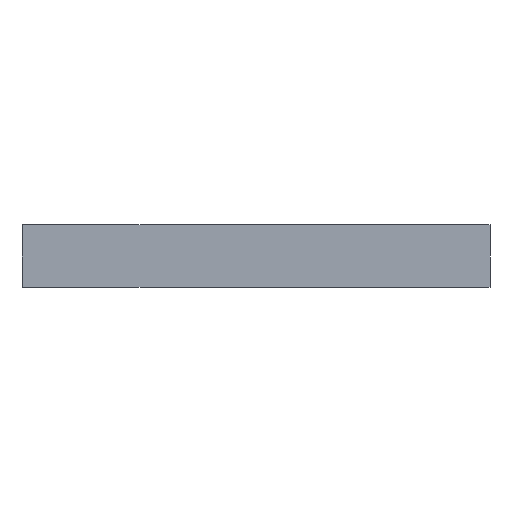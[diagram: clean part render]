
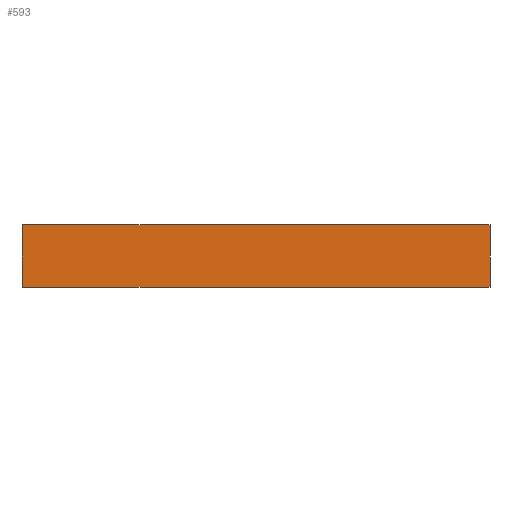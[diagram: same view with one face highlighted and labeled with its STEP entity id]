
A CAD part, front view. The second image highlights one B-rep face of the part: STEP entity #593.
In plain terms, the highlighted planar face has unit normal (0, -1, 0).
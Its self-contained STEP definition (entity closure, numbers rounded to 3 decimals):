
#44 = PLANE('',#45);
#45 = AXIS2_PLACEMENT_3D('',#46,#47,#48);
#46 = CARTESIAN_POINT('',(0.,214.,0.));
#47 = DIRECTION('',(0.,0.,1.));
#48 = DIRECTION('',(0.,-1.,0.));
#100 = PLANE('',#101);
#101 = AXIS2_PLACEMENT_3D('',#102,#103,#104);
#102 = CARTESIAN_POINT('',(0.,214.,4.));
#103 = DIRECTION('',(0.,0.,1.));
#104 = DIRECTION('',(0.,-1.,0.));
#485 = PLANE('',#486);
#486 = AXIS2_PLACEMENT_3D('',#487,#488,#489);
#487 = CARTESIAN_POINT('',(30.,4.,0.));
#488 = DIRECTION('',(1.,0.,0.));
#489 = DIRECTION('',(0.,-1.,0.));
#522 = VERTEX_POINT('',#523);
#523 = CARTESIAN_POINT('',(30.,0.,0.));
#546 = VERTEX_POINT('',#547);
#547 = CARTESIAN_POINT('',(30.,0.,4.));
#568 = EDGE_CURVE('',#522,#546,#569,.T.);
#569 = SURFACE_CURVE('',#570,(#574,#581),.PCURVE_S1.);
#570 = LINE('',#571,#572);
#571 = CARTESIAN_POINT('',(30.,0.,0.));
#572 = VECTOR('',#573,1.);
#573 = DIRECTION('',(0.,0.,1.));
#574 = PCURVE('',#485,#575);
#575 = DEFINITIONAL_REPRESENTATION('',(#576),#580);
#576 = LINE('',#577,#578);
#577 = CARTESIAN_POINT('',(4.,0.));
#578 = VECTOR('',#579,1.);
#579 = DIRECTION('',(0.,-1.));
#580 = ( GEOMETRIC_REPRESENTATION_CONTEXT(2) 
PARAMETRIC_REPRESENTATION_CONTEXT() REPRESENTATION_CONTEXT('2D SPACE',''
  ) );
#581 = PCURVE('',#582,#587);
#582 = PLANE('',#583);
#583 = AXIS2_PLACEMENT_3D('',#584,#585,#586);
#584 = CARTESIAN_POINT('',(0.,0.,0.));
#585 = DIRECTION('',(0.,-1.,0.));
#586 = DIRECTION('',(1.,0.,0.));
#587 = DEFINITIONAL_REPRESENTATION('',(#588),#592);
#588 = LINE('',#589,#590);
#589 = CARTESIAN_POINT('',(30.,0.));
#590 = VECTOR('',#591,1.);
#591 = DIRECTION('',(0.,1.));
#592 = ( GEOMETRIC_REPRESENTATION_CONTEXT(2) 
PARAMETRIC_REPRESENTATION_CONTEXT() REPRESENTATION_CONTEXT('2D SPACE',''
  ) );
#593 = ADVANCED_FACE('',(#594),#582,.T.);
#594 = FACE_BOUND('',#595,.T.);
#595 = EDGE_LOOP('',(#596,#626,#647,#648));
#596 = ORIENTED_EDGE('',*,*,#597,.F.);
#597 = EDGE_CURVE('',#598,#600,#602,.T.);
#598 = VERTEX_POINT('',#599);
#599 = CARTESIAN_POINT('',(0.,0.,0.));
#600 = VERTEX_POINT('',#601);
#601 = CARTESIAN_POINT('',(0.,0.,4.));
#602 = SURFACE_CURVE('',#603,(#607,#614),.PCURVE_S1.);
#603 = LINE('',#604,#605);
#604 = CARTESIAN_POINT('',(0.,0.,0.));
#605 = VECTOR('',#606,1.);
#606 = DIRECTION('',(0.,0.,1.));
#607 = PCURVE('',#582,#608);
#608 = DEFINITIONAL_REPRESENTATION('',(#609),#613);
#609 = LINE('',#610,#611);
#610 = CARTESIAN_POINT('',(0.,0.));
#611 = VECTOR('',#612,1.);
#612 = DIRECTION('',(0.,1.));
#613 = ( GEOMETRIC_REPRESENTATION_CONTEXT(2) 
PARAMETRIC_REPRESENTATION_CONTEXT() REPRESENTATION_CONTEXT('2D SPACE',''
  ) );
#614 = PCURVE('',#615,#620);
#615 = PLANE('',#616);
#616 = AXIS2_PLACEMENT_3D('',#617,#618,#619);
#617 = CARTESIAN_POINT('',(0.,214.,0.));
#618 = DIRECTION('',(1.,0.,0.));
#619 = DIRECTION('',(0.,-1.,0.));
#620 = DEFINITIONAL_REPRESENTATION('',(#621),#625);
#621 = LINE('',#622,#623);
#622 = CARTESIAN_POINT('',(214.,0.));
#623 = VECTOR('',#624,1.);
#624 = DIRECTION('',(0.,-1.));
#625 = ( GEOMETRIC_REPRESENTATION_CONTEXT(2) 
PARAMETRIC_REPRESENTATION_CONTEXT() REPRESENTATION_CONTEXT('2D SPACE',''
  ) );
#626 = ORIENTED_EDGE('',*,*,#627,.T.);
#627 = EDGE_CURVE('',#598,#522,#628,.T.);
#628 = SURFACE_CURVE('',#629,(#633,#640),.PCURVE_S1.);
#629 = LINE('',#630,#631);
#630 = CARTESIAN_POINT('',(0.,0.,0.));
#631 = VECTOR('',#632,1.);
#632 = DIRECTION('',(1.,0.,0.));
#633 = PCURVE('',#582,#634);
#634 = DEFINITIONAL_REPRESENTATION('',(#635),#639);
#635 = LINE('',#636,#637);
#636 = CARTESIAN_POINT('',(0.,0.));
#637 = VECTOR('',#638,1.);
#638 = DIRECTION('',(1.,0.));
#639 = ( GEOMETRIC_REPRESENTATION_CONTEXT(2) 
PARAMETRIC_REPRESENTATION_CONTEXT() REPRESENTATION_CONTEXT('2D SPACE',''
  ) );
#640 = PCURVE('',#44,#641);
#641 = DEFINITIONAL_REPRESENTATION('',(#642),#646);
#642 = LINE('',#643,#644);
#643 = CARTESIAN_POINT('',(214.,0.));
#644 = VECTOR('',#645,1.);
#645 = DIRECTION('',(0.,1.));
#646 = ( GEOMETRIC_REPRESENTATION_CONTEXT(2) 
PARAMETRIC_REPRESENTATION_CONTEXT() REPRESENTATION_CONTEXT('2D SPACE',''
  ) );
#647 = ORIENTED_EDGE('',*,*,#568,.T.);
#648 = ORIENTED_EDGE('',*,*,#649,.F.);
#649 = EDGE_CURVE('',#600,#546,#650,.T.);
#650 = SURFACE_CURVE('',#651,(#655,#662),.PCURVE_S1.);
#651 = LINE('',#652,#653);
#652 = CARTESIAN_POINT('',(0.,0.,4.));
#653 = VECTOR('',#654,1.);
#654 = DIRECTION('',(1.,0.,0.));
#655 = PCURVE('',#582,#656);
#656 = DEFINITIONAL_REPRESENTATION('',(#657),#661);
#657 = LINE('',#658,#659);
#658 = CARTESIAN_POINT('',(0.,4.));
#659 = VECTOR('',#660,1.);
#660 = DIRECTION('',(1.,0.));
#661 = ( GEOMETRIC_REPRESENTATION_CONTEXT(2) 
PARAMETRIC_REPRESENTATION_CONTEXT() REPRESENTATION_CONTEXT('2D SPACE',''
  ) );
#662 = PCURVE('',#100,#663);
#663 = DEFINITIONAL_REPRESENTATION('',(#664),#668);
#664 = LINE('',#665,#666);
#665 = CARTESIAN_POINT('',(214.,0.));
#666 = VECTOR('',#667,1.);
#667 = DIRECTION('',(0.,1.));
#668 = ( GEOMETRIC_REPRESENTATION_CONTEXT(2) 
PARAMETRIC_REPRESENTATION_CONTEXT() REPRESENTATION_CONTEXT('2D SPACE',''
  ) );
